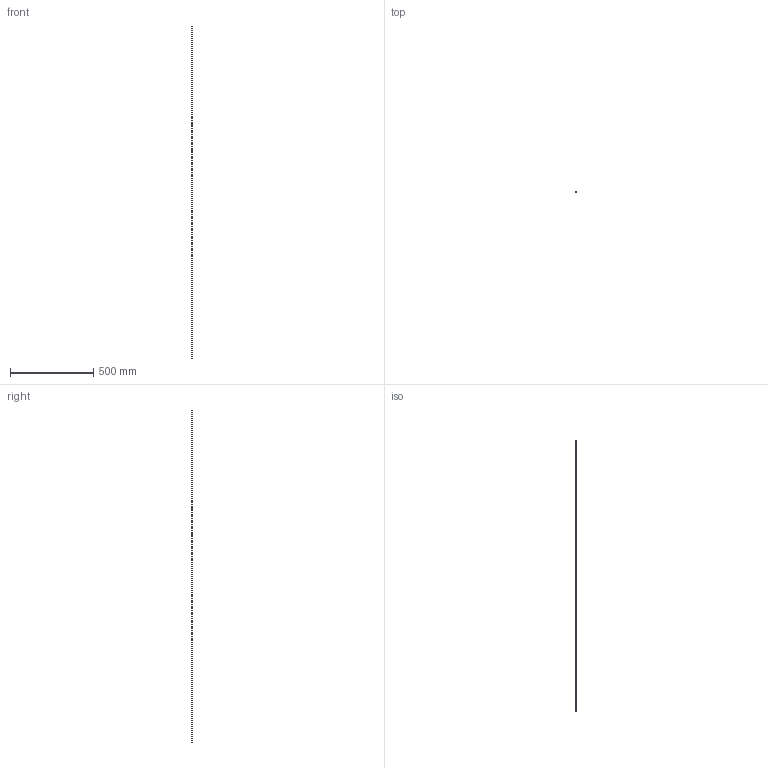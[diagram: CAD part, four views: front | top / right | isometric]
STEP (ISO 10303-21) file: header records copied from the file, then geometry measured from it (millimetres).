
FILE_DESCRIPTION (( 'STEP AP203' ), '1' );
FILE_NAME ('1.5x2.5mm 芵隴寡蝶奪 2m.STEP', '2024-06-10T16:30:27', ( '' ), ( '' ), 'SwSTEP 2.0', 'SolidWorks 2020', '' );
FILE_SCHEMA (( 'CONFIG_CONTROL_DESIGN' ));
Length unit declared in the file: millimetre
Products named in the file (1): 1.5x2.5mm 芵隴寡蝶奪 2m
Bounding box: 2.5 x 2.38 x 2000 mm (x, y, z)
Volume: 6283.2 mm3; surface area: 25139 mm2
Topology: 1 solids, 1 shells, 6 faces, 12 edges, 8 vertices
Faces by surface type: cylinder 4, plane 2
Entity records: 245 total; most frequent: DIRECTION 34, CARTESIAN_POINT 27, ORIENTED_EDGE 24, AXIS2_PLACEMENT_3D 15, EDGE_CURVE 12, EDGE_LOOP 8, VERTEX_POINT 8, PERSON_AND_ORGANIZATION 8
